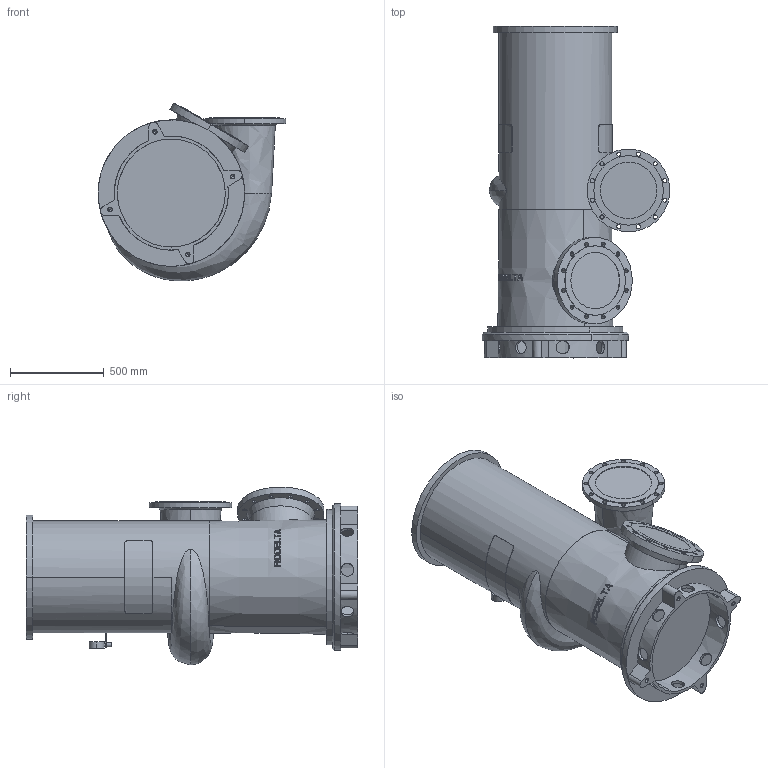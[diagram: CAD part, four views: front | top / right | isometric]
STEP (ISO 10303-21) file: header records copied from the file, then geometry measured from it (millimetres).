
FILE_DESCRIPTION((''),'2;1');
FILE_NAME('12-520_ASM','2024-08-06T',('Lyritlocal'),(''),'PRO/ENGINEER BY PARAMETRIC TECHNOLOGY CORPORATION, 2016360','PRO/ENGINEER BY PARAMETRIC TECHNOLOGY CORPORATION, 2016360','');
FILE_SCHEMA(('CONFIG_CONTROL_DESIGN'));
Length unit declared in the file: millimetre
Products named in the file (3): 12-520; 12-520_VOET; 12-520_ASM
Assembly tree (2 placements, depth 2):
  12-520_ASM
    12-520
    12-520_VOET
Bounding box: 1000 x 1766.5 x 947.64 mm (x, y, z)
Volume: 566586530 mm3; surface area: 6652634.1 mm2
Topology: 2 solids, 6 shells, 503 faces, 1366 edges, 900 vertices
Faces by surface type: plane 323, cylinder 138, cone 36, bspline 6
Entity records: 17785 total; most frequent: CARTESIAN_POINT 5428, ORIENTED_EDGE 2700, DIRECTION 2313, EDGE_CURVE 1358, VERTEX_POINT 900, AXIS2_PLACEMENT_3D 896, EDGE_LOOP 608, VECTOR 521
